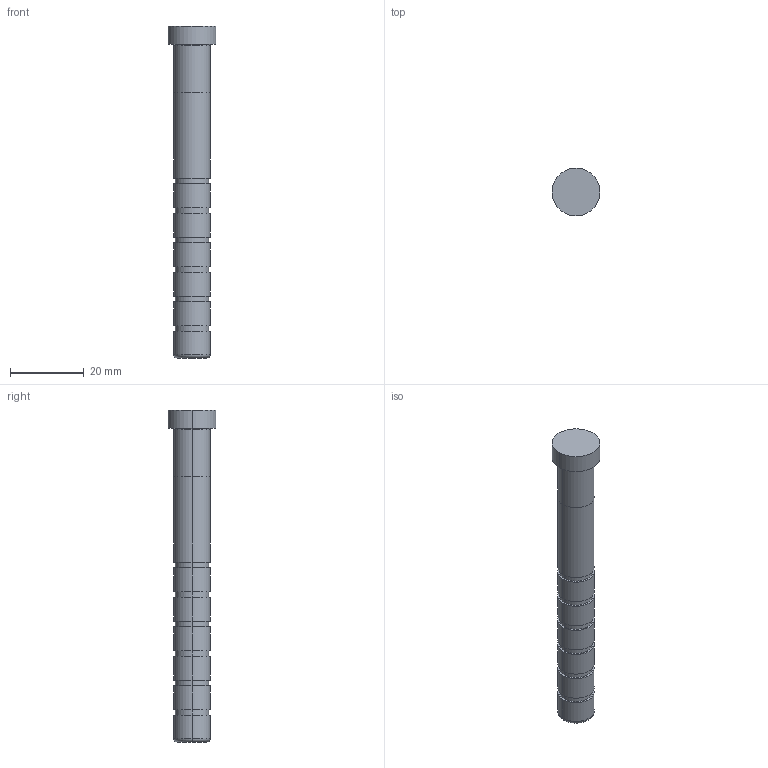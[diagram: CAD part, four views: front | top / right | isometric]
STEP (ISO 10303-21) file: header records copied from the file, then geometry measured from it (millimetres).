
FILE_DESCRIPTION(/* description */ (''),/* implementation_level */ '2;1');
FILE_NAME(/* name */ '3d_sgoh10-90_05236_r00.stp',/* time_stamp */ '2011-01-10T14:11:10+09:00',/* author */ ('MISUMI'),/* organization */ (''),/* preprocessor_version */ 'ST-DEVELOPER v11',/* originating_system */ 'UGS - NX 5.0',/* authorisation */ '');
FILE_SCHEMA (('CONFIG_CONTROL_DESIGN'));
Length unit declared in the file: millimetre
Products named in the file (1): 3d_sgoh10-90_05236_r00
Bounding box: 13 x 13 x 90 mm (x, y, z)
Volume: 7199.2 mm3; surface area: 3273.5 mm2
Topology: 1 solids, 1 shells, 49 faces, 96 edges, 62 vertices
Faces by surface type: cylinder 30, plane 15, torus 4
Entity records: 1374 total; most frequent: DIRECTION 262, CARTESIAN_POINT 208, ORIENTED_EDGE 192, AXIS2_PLACEMENT_3D 116, EDGE_CURVE 96, CIRCLE 66, EDGE_LOOP 62, VERTEX_POINT 62
